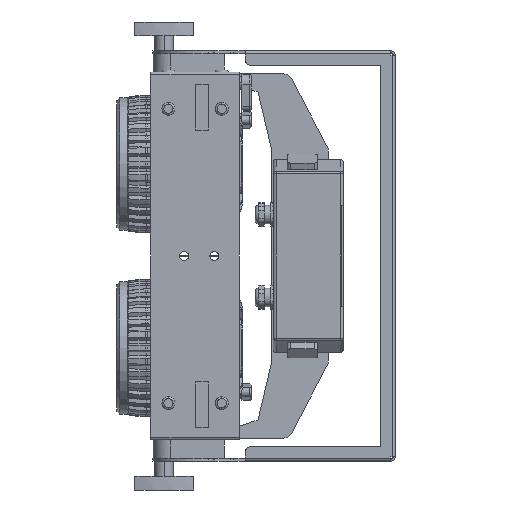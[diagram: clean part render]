
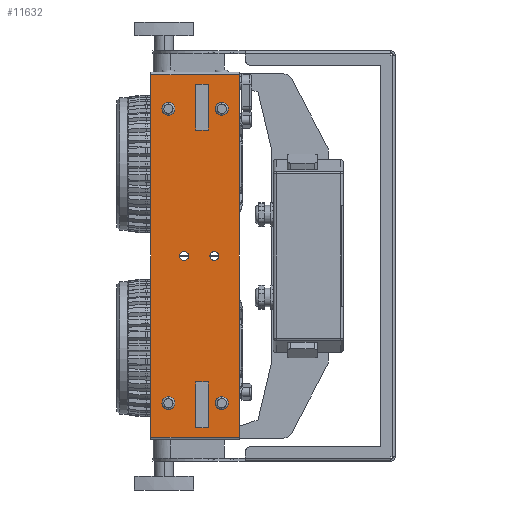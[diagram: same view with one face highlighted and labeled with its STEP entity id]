
A CAD part, front view. The second image highlights one B-rep face of the part: STEP entity #11632.
In plain terms, the highlighted planar face has unit normal (0, -1, 0).
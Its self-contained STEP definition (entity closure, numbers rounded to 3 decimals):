
#1520=DIRECTION('',(0.,0.,1.));
#1521=VECTOR('',#1520,394.);
#1522=CARTESIAN_POINT('',(96.,0.,-197.));
#1523=LINE('',#1522,#1521);
#2807=DIRECTION('',(-1.,0.,0.));
#2808=VECTOR('',#2807,96.);
#2809=CARTESIAN_POINT('',(96.,0.,-197.));
#2810=LINE('',#2809,#2808);
#2811=DIRECTION('',(1.,0.,0.));
#2812=VECTOR('',#2811,96.);
#2813=CARTESIAN_POINT('',(0.,0.,197.));
#2814=LINE('',#2813,#2812);
#2815=CARTESIAN_POINT('',(69.,0.,0.));
#2816=DIRECTION('',(0.,1.,0.));
#2817=DIRECTION('',(0.,0.,-1.));
#2818=AXIS2_PLACEMENT_3D('',#2815,#2816,#2817);
#2820=CARTESIAN_POINT('',(69.,0.,0.));
#2821=DIRECTION('',(0.,1.,0.));
#2822=DIRECTION('',(0.,0.,1.));
#2823=AXIS2_PLACEMENT_3D('',#2820,#2821,#2822);
#2825=CARTESIAN_POINT('',(36.,0.,0.));
#2826=DIRECTION('',(0.,1.,0.));
#2827=DIRECTION('',(0.,0.,-1.));
#2828=AXIS2_PLACEMENT_3D('',#2825,#2826,#2827);
#2830=CARTESIAN_POINT('',(36.,0.,0.));
#2831=DIRECTION('',(0.,1.,0.));
#2832=DIRECTION('',(0.,0.,1.));
#2833=AXIS2_PLACEMENT_3D('',#2830,#2831,#2832);
#2835=CARTESIAN_POINT('',(77.,0.,160.));
#2836=DIRECTION('',(0.,-1.,0.));
#2837=DIRECTION('',(0.,0.,-1.));
#2838=AXIS2_PLACEMENT_3D('',#2835,#2836,#2837);
#2840=CARTESIAN_POINT('',(77.,0.,160.));
#2841=DIRECTION('',(0.,-1.,0.));
#2842=DIRECTION('',(0.,0.,1.));
#2843=AXIS2_PLACEMENT_3D('',#2840,#2841,#2842);
#2845=CARTESIAN_POINT('',(19.,0.,160.));
#2846=DIRECTION('',(0.,-1.,0.));
#2847=DIRECTION('',(0.,0.,-1.));
#2848=AXIS2_PLACEMENT_3D('',#2845,#2846,#2847);
#2850=CARTESIAN_POINT('',(19.,0.,160.));
#2851=DIRECTION('',(0.,-1.,0.));
#2852=DIRECTION('',(0.,0.,1.));
#2853=AXIS2_PLACEMENT_3D('',#2850,#2851,#2852);
#2855=CARTESIAN_POINT('',(77.,0.,-160.));
#2856=DIRECTION('',(0.,-1.,0.));
#2857=DIRECTION('',(0.,0.,-1.));
#2858=AXIS2_PLACEMENT_3D('',#2855,#2856,#2857);
#2860=CARTESIAN_POINT('',(77.,0.,-160.));
#2861=DIRECTION('',(0.,-1.,0.));
#2862=DIRECTION('',(0.,0.,1.));
#2863=AXIS2_PLACEMENT_3D('',#2860,#2861,#2862);
#2865=CARTESIAN_POINT('',(19.,0.,-160.));
#2866=DIRECTION('',(0.,-1.,0.));
#2867=DIRECTION('',(0.,0.,-1.));
#2868=AXIS2_PLACEMENT_3D('',#2865,#2866,#2867);
#2870=CARTESIAN_POINT('',(19.,0.,-160.));
#2871=DIRECTION('',(0.,-1.,0.));
#2872=DIRECTION('',(0.,0.,1.));
#2873=AXIS2_PLACEMENT_3D('',#2870,#2871,#2872);
#2875=DIRECTION('',(1.,0.,0.));
#2876=VECTOR('',#2875,14.);
#2877=CARTESIAN_POINT('',(48.5,0.,187.));
#2878=LINE('',#2877,#2876);
#2887=DIRECTION('',(0.,0.,-1.));
#2888=VECTOR('',#2887,50.);
#2889=CARTESIAN_POINT('',(62.5,0.,187.));
#2890=LINE('',#2889,#2888);
#2895=DIRECTION('',(-1.,0.,0.));
#2896=VECTOR('',#2895,14.);
#2897=CARTESIAN_POINT('',(62.5,0.,137.));
#2898=LINE('',#2897,#2896);
#2903=DIRECTION('',(0.,0.,1.));
#2904=VECTOR('',#2903,50.);
#2905=CARTESIAN_POINT('',(48.5,0.,137.));
#2906=LINE('',#2905,#2904);
#2927=DIRECTION('',(1.,0.,0.));
#2928=VECTOR('',#2927,14.);
#2929=CARTESIAN_POINT('',(48.5,0.,-187.));
#2930=LINE('',#2929,#2928);
#2935=DIRECTION('',(0.,0.,-1.));
#2936=VECTOR('',#2935,50.);
#2937=CARTESIAN_POINT('',(48.5,0.,-137.));
#2938=LINE('',#2937,#2936);
#2939=DIRECTION('',(-1.,0.,0.));
#2940=VECTOR('',#2939,14.);
#2941=CARTESIAN_POINT('',(62.5,0.,-137.));
#2942=LINE('',#2941,#2940);
#2951=DIRECTION('',(0.,0.,1.));
#2952=VECTOR('',#2951,50.);
#2953=CARTESIAN_POINT('',(62.5,0.,-187.));
#2954=LINE('',#2953,#2952);
#3035=DIRECTION('',(0.,0.,1.));
#3036=VECTOR('',#3035,394.);
#3037=CARTESIAN_POINT('',(0.,0.,-197.));
#3038=LINE('',#3037,#3036);
#7462=CARTESIAN_POINT('',(48.5,0.,187.));
#7463=CARTESIAN_POINT('',(62.5,0.,187.));
#7464=VERTEX_POINT('',#7462);
#7465=VERTEX_POINT('',#7463);
#7466=CARTESIAN_POINT('',(62.5,0.,137.));
#7467=VERTEX_POINT('',#7466);
#7468=CARTESIAN_POINT('',(48.5,0.,137.));
#7469=VERTEX_POINT('',#7468);
#7470=CARTESIAN_POINT('',(48.5,0.,-187.));
#7471=CARTESIAN_POINT('',(62.5,0.,-187.));
#7472=VERTEX_POINT('',#7470);
#7473=VERTEX_POINT('',#7471);
#7474=CARTESIAN_POINT('',(62.5,0.,-137.));
#7475=VERTEX_POINT('',#7474);
#7476=CARTESIAN_POINT('',(48.5,0.,-137.));
#7477=VERTEX_POINT('',#7476);
#7531=CARTESIAN_POINT('',(0.,0.,-197.));
#7533=VERTEX_POINT('',#7531);
#7534=CARTESIAN_POINT('',(96.,0.,-197.));
#7535=VERTEX_POINT('',#7534);
#7539=CARTESIAN_POINT('',(96.,0.,197.));
#7541=VERTEX_POINT('',#7539);
#7542=CARTESIAN_POINT('',(0.,0.,197.));
#7543=VERTEX_POINT('',#7542);
#7602=CARTESIAN_POINT('',(69.,0.,-5.));
#7603=CARTESIAN_POINT('',(69.,0.,5.));
#7604=VERTEX_POINT('',#7602);
#7605=VERTEX_POINT('',#7603);
#7606=CARTESIAN_POINT('',(36.,0.,-5.));
#7607=CARTESIAN_POINT('',(36.,0.,5.));
#7608=VERTEX_POINT('',#7606);
#7609=VERTEX_POINT('',#7607);
#7622=CARTESIAN_POINT('',(77.,0.,153.));
#7623=CARTESIAN_POINT('',(77.,0.,167.));
#7624=VERTEX_POINT('',#7622);
#7625=VERTEX_POINT('',#7623);
#7630=CARTESIAN_POINT('',(19.,0.,153.));
#7631=CARTESIAN_POINT('',(19.,0.,167.));
#7632=VERTEX_POINT('',#7630);
#7633=VERTEX_POINT('',#7631);
#7638=CARTESIAN_POINT('',(77.,0.,-167.));
#7639=CARTESIAN_POINT('',(77.,0.,-153.));
#7640=VERTEX_POINT('',#7638);
#7641=VERTEX_POINT('',#7639);
#7646=CARTESIAN_POINT('',(19.,0.,-167.));
#7647=CARTESIAN_POINT('',(19.,0.,-153.));
#7648=VERTEX_POINT('',#7646);
#7649=VERTEX_POINT('',#7647);
#11563=CARTESIAN_POINT('',(94.,0.,-198.));
#11564=DIRECTION('',(0.,1.,0.));
#11565=DIRECTION('',(0.,0.,1.));
#11566=AXIS2_PLACEMENT_3D('',#11563,#11564,#11565);
#11567=PLANE('',#11566);
#11569=ORIENTED_EDGE('',*,*,#11568,.T.);
#11571=ORIENTED_EDGE('',*,*,#11570,.T.);
#11572=ORIENTED_EDGE('',*,*,#11555,.T.);
#11573=ORIENTED_EDGE('',*,*,#9708,.F.);
#11574=EDGE_LOOP('',(#11569,#11571,#11572,#11573));
#11575=FACE_OUTER_BOUND('',#11574,.F.);
#11577=ORIENTED_EDGE('',*,*,#11576,.T.);
#11579=ORIENTED_EDGE('',*,*,#11578,.T.);
#11581=ORIENTED_EDGE('',*,*,#11580,.T.);
#11583=ORIENTED_EDGE('',*,*,#11582,.T.);
#11584=EDGE_LOOP('',(#11577,#11579,#11581,#11583));
#11585=FACE_BOUND('',#11584,.F.);
#11587=ORIENTED_EDGE('',*,*,#11586,.F.);
#11589=ORIENTED_EDGE('',*,*,#11588,.F.);
#11591=ORIENTED_EDGE('',*,*,#11590,.F.);
#11593=ORIENTED_EDGE('',*,*,#11592,.F.);
#11594=EDGE_LOOP('',(#11587,#11589,#11591,#11593));
#11595=FACE_BOUND('',#11594,.F.);
#11597=ORIENTED_EDGE('',*,*,#11596,.F.);
#11599=ORIENTED_EDGE('',*,*,#11598,.F.);
#11600=EDGE_LOOP('',(#11597,#11599));
#11601=FACE_BOUND('',#11600,.F.);
#11603=ORIENTED_EDGE('',*,*,#11602,.F.);
#11605=ORIENTED_EDGE('',*,*,#11604,.F.);
#11606=EDGE_LOOP('',(#11603,#11605));
#11607=FACE_BOUND('',#11606,.F.);
#11609=ORIENTED_EDGE('',*,*,#11608,.T.);
#11611=ORIENTED_EDGE('',*,*,#11610,.T.);
#11612=EDGE_LOOP('',(#11609,#11611));
#11613=FACE_BOUND('',#11612,.F.);
#11615=ORIENTED_EDGE('',*,*,#11614,.T.);
#11617=ORIENTED_EDGE('',*,*,#11616,.T.);
#11618=EDGE_LOOP('',(#11615,#11617));
#11619=FACE_BOUND('',#11618,.F.);
#11621=ORIENTED_EDGE('',*,*,#11620,.T.);
#11623=ORIENTED_EDGE('',*,*,#11622,.T.);
#11624=EDGE_LOOP('',(#11621,#11623));
#11625=FACE_BOUND('',#11624,.F.);
#11627=ORIENTED_EDGE('',*,*,#11626,.T.);
#11629=ORIENTED_EDGE('',*,*,#11628,.T.);
#11630=EDGE_LOOP('',(#11627,#11629));
#11631=FACE_BOUND('',#11630,.F.);
#2819=CIRCLE('',#2818,5.);
#2824=CIRCLE('',#2823,5.);
#2829=CIRCLE('',#2828,5.);
#2834=CIRCLE('',#2833,5.);
#2839=CIRCLE('',#2838,7.);
#2844=CIRCLE('',#2843,7.);
#2849=CIRCLE('',#2848,7.);
#2854=CIRCLE('',#2853,7.);
#2859=CIRCLE('',#2858,7.);
#2864=CIRCLE('',#2863,7.);
#2869=CIRCLE('',#2868,7.);
#2874=CIRCLE('',#2873,7.);
#9708=EDGE_CURVE('',#7535,#7541,#1523,.T.);
#11555=EDGE_CURVE('',#7543,#7541,#2814,.T.);
#11568=EDGE_CURVE('',#7535,#7533,#2810,.T.);
#11570=EDGE_CURVE('',#7533,#7543,#3038,.T.);
#11576=EDGE_CURVE('',#7472,#7473,#2930,.T.);
#11578=EDGE_CURVE('',#7473,#7475,#2954,.T.);
#11580=EDGE_CURVE('',#7475,#7477,#2942,.T.);
#11582=EDGE_CURVE('',#7477,#7472,#2938,.T.);
#11586=EDGE_CURVE('',#7464,#7465,#2878,.T.);
#11588=EDGE_CURVE('',#7469,#7464,#2906,.T.);
#11590=EDGE_CURVE('',#7467,#7469,#2898,.T.);
#11592=EDGE_CURVE('',#7465,#7467,#2890,.T.);
#11596=EDGE_CURVE('',#7604,#7605,#2819,.T.);
#11598=EDGE_CURVE('',#7605,#7604,#2824,.T.);
#11602=EDGE_CURVE('',#7608,#7609,#2829,.T.);
#11604=EDGE_CURVE('',#7609,#7608,#2834,.T.);
#11608=EDGE_CURVE('',#7624,#7625,#2839,.T.);
#11610=EDGE_CURVE('',#7625,#7624,#2844,.T.);
#11614=EDGE_CURVE('',#7632,#7633,#2849,.T.);
#11616=EDGE_CURVE('',#7633,#7632,#2854,.T.);
#11620=EDGE_CURVE('',#7640,#7641,#2859,.T.);
#11622=EDGE_CURVE('',#7641,#7640,#2864,.T.);
#11626=EDGE_CURVE('',#7648,#7649,#2869,.T.);
#11628=EDGE_CURVE('',#7649,#7648,#2874,.T.);
#11632=ADVANCED_FACE('',(#11575,#11585,#11595,#11601,#11607,#11613,#11619,
#11625,#11631),#11567,.F.);
